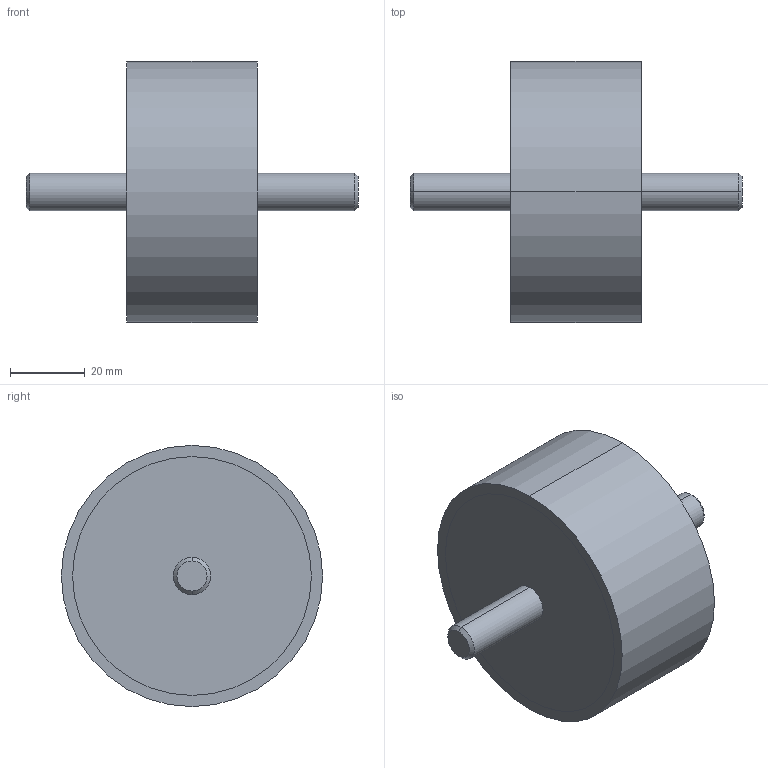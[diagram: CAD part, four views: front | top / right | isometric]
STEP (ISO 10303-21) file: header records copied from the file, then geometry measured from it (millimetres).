
FILE_DESCRIPTION (( 'STEP AP214' ), '1' );
FILE_NAME ('351-70-35-M10-SS-55.step', '2025-07-23T09:54:20', ( '' ), ( '' ), 'SwSTEP 2.0', 'SolidWorks 2022', '' );
FILE_SCHEMA (( 'AUTOMOTIVE_DESIGN' ));
Length unit declared in the file: millimetre
Products named in the file (1): 351-70-35-M10-SS-55
Bounding box: 89 x 70 x 70 mm (x, y, z)
Volume: 138847.6 mm3; surface area: 17057.6 mm2
Topology: 1 solids, 1 shells, 20 faces, 38 edges, 24 vertices
Faces by surface type: cylinder 10, plane 6, cone 4
Entity records: 636 total; most frequent: DIRECTION 104, CARTESIAN_POINT 83, ORIENTED_EDGE 76, AXIS2_PLACEMENT_3D 45, EDGE_CURVE 38, VERTEX_POINT 24, EDGE_LOOP 24, CIRCLE 24
